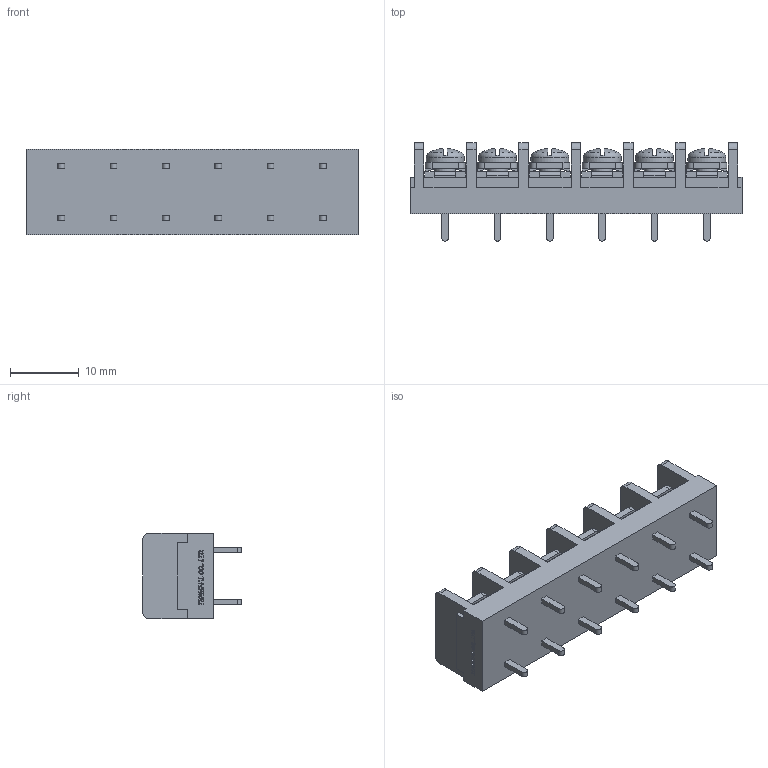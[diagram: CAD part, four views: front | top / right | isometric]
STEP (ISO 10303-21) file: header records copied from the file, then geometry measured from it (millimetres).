
FILE_DESCRIPTION(/* description */ ('Alibre Inc.'),/* implementation_level */ '2;1');
FILE_NAME(/* name */ 'export0',/* time_stamp */ '2015-10-26T18:21:26+09:00',/* author */ (''),/* organization */ (''),/* preprocessor_version */ 'ST-DEVELOPER v14',/* originating_system */ 'Alibre',/* authorisation */ '');
FILE_SCHEMA (('CONFIG_CONTROL_DESIGN'));
Length unit declared in the file: centimetre
Products named in the file (1): ID_1
Bounding box: 48.34 x 14.3 x 12.5 mm (x, y, z)
Volume: 4395.7 mm3; surface area: 4095.3 mm2
Topology: 1 solids, 1 shells, 992 faces, 2700 edges, 1780 vertices
Faces by surface type: plane 766, bspline 104, cylinder 74, cone 24, torus 12, sphere 12
Full cylindrical faces by diameter (mm): 3 x6, 5.5 x6
Entity records: 29741 total; most frequent: CARTESIAN_POINT 6581, ORIENTED_EDGE 5328, DIRECTION 3566, EDGE_CURVE 2664, VECTOR 1948, LINE 1948, VERTEX_POINT 1768, AXIS2_PLACEMENT_3D 1161
